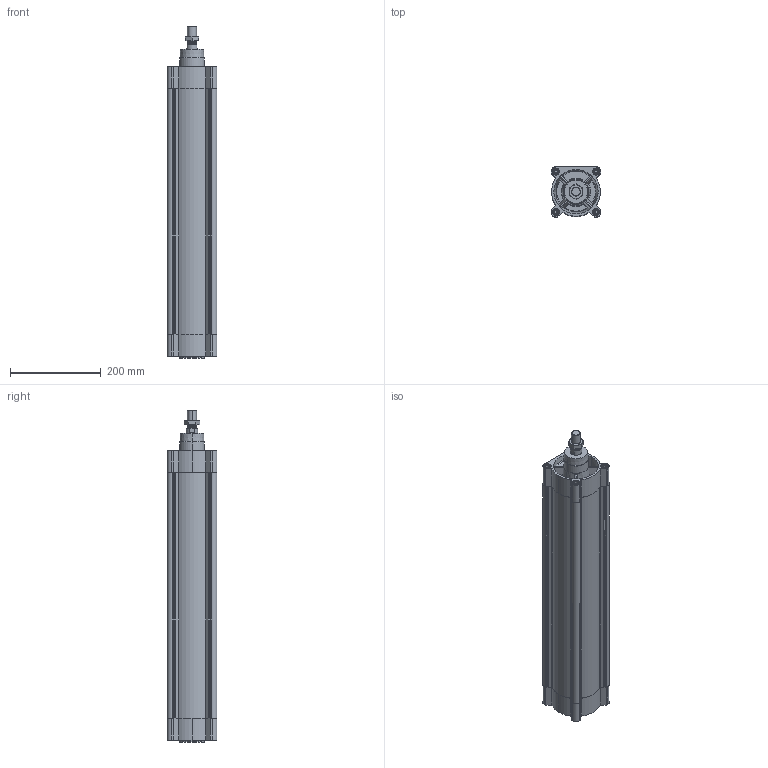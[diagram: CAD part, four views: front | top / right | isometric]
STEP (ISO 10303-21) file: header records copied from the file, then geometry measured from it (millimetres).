
FILE_DESCRIPTION (( 'STEP AP203' ), '1' );
FILE_NAME ('CPME100-500.STEP', '2024-04-18T10:35:11', ( '' ), ( '' ), 'SwSTEP 2.0', 'SolidWorks 2019', '' );
FILE_SCHEMA (( 'CONFIG_CONTROL_DESIGN' ));
Length unit declared in the file: millimetre
Products named in the file (1): CPME100-500
Bounding box: 110 x 110 x 731.5 mm (x, y, z)
Volume: 2929623.5 mm3; surface area: 676006.8 mm2
Topology: 3 solids, 3 shells, 537 faces, 1365 edges, 874 vertices
Faces by surface type: cylinder 206, plane 205, cone 98, torus 28
Entity records: 18896 total; most frequent: CARTESIAN_POINT 5784, DIRECTION 2761, ORIENTED_EDGE 2730, EDGE_CURVE 1365, AXIS2_PLACEMENT_3D 1049, VERTEX_POINT 874, VECTOR 663, LINE 663
